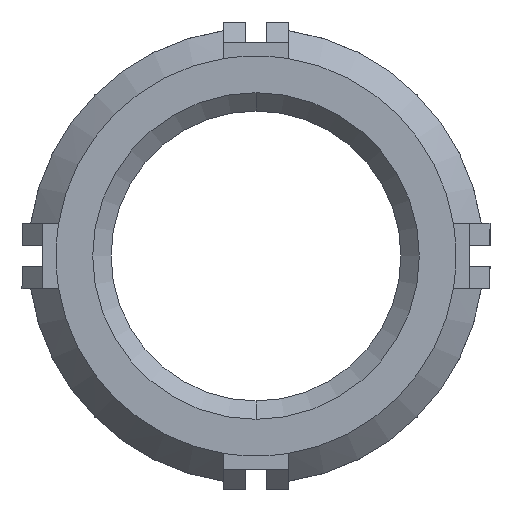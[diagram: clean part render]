
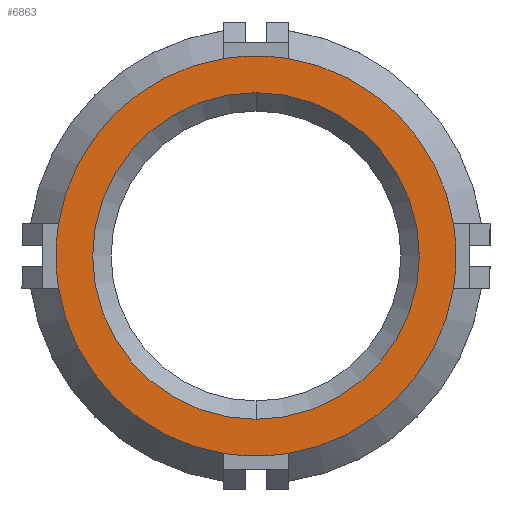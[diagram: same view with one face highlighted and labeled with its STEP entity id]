
A CAD part, front view. The second image highlights one B-rep face of the part: STEP entity #6863.
In plain terms, the highlighted planar face has unit normal (0, -1, 0).
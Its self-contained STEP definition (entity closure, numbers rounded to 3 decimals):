
#79 = CARTESIAN_POINT ( 'NONE',  ( 0., -31.75, 12.524 ) ) ;
#129 = VERTEX_POINT ( 'NONE', #2861 ) ;
#143 = CARTESIAN_POINT ( 'NONE',  ( 0., -31.75, 0. ) ) ;
#159 = FACE_OUTER_BOUND ( 'NONE', #7070, .T. ) ;
#215 = AXIS2_PLACEMENT_3D ( 'NONE', #7152, #3733, #3776 ) ;
#247 = VERTEX_POINT ( 'NONE', #3487 ) ;
#329 = DIRECTION ( 'NONE',  ( 0., 0., 1. ) ) ;
#354 = PLANE ( 'NONE',  #709 ) ;
#506 = DIRECTION ( 'NONE',  ( 0., -1., 0. ) ) ;
#515 = CARTESIAN_POINT ( 'NONE',  ( -15.14, -31.75, -2.5 ) ) ;
#577 = ORIENTED_EDGE ( 'NONE', *, *, #2271, .T. ) ;
#586 = DIRECTION ( 'NONE',  ( 0., 0., 1. ) ) ;
#709 = AXIS2_PLACEMENT_3D ( 'NONE', #1566, #3276, #6264 ) ;
#718 = DIRECTION ( 'NONE',  ( 0., -1., 0. ) ) ;
#775 = CARTESIAN_POINT ( 'NONE',  ( 0., -31.75, 0. ) ) ;
#776 = DIRECTION ( 'NONE',  ( 1., 0., 0. ) ) ;
#804 = CARTESIAN_POINT ( 'NONE',  ( -2.5, -31.75, 15.14 ) ) ;
#827 = ORIENTED_EDGE ( 'NONE', *, *, #1476, .T. ) ;
#881 = CIRCLE ( 'NONE', #5418, 12.524 ) ;
#929 = DIRECTION ( 'NONE',  ( 0., 1., 0. ) ) ;
#1117 = DIRECTION ( 'NONE',  ( 0., 0., 1. ) ) ;
#1272 = VERTEX_POINT ( 'NONE', #79 ) ;
#1468 = DIRECTION ( 'NONE',  ( 0., 0., 1. ) ) ;
#1471 = CIRCLE ( 'NONE', #3402, 12.524 ) ;
#1476 = EDGE_CURVE ( 'NONE', #2545, #129, #5819, .T. ) ;
#1488 = AXIS2_PLACEMENT_3D ( 'NONE', #775, #1974, #4306 ) ;
#1566 = CARTESIAN_POINT ( 'NONE',  ( 0., -31.75, 0. ) ) ;
#1653 = ORIENTED_EDGE ( 'NONE', *, *, #5198, .T. ) ;
#1692 = CARTESIAN_POINT ( 'NONE',  ( 0., -31.75, 0. ) ) ;
#1807 = EDGE_CURVE ( 'NONE', #3529, #1272, #1471, .T. ) ;
#1865 = AXIS2_PLACEMENT_3D ( 'NONE', #143, #718, #4759 ) ;
#1878 = DIRECTION ( 'NONE',  ( 0., -1., 0. ) ) ;
#1942 = EDGE_CURVE ( 'NONE', #4250, #7087, #5450, .T. ) ;
#1974 = DIRECTION ( 'NONE',  ( 0., -1., 0. ) ) ;
#2246 = AXIS2_PLACEMENT_3D ( 'NONE', #5990, #7205, #4234 ) ;
#2271 = EDGE_CURVE ( 'NONE', #129, #247, #4976, .T. ) ;
#2280 = EDGE_CURVE ( 'NONE', #6018, #2441, #4711, .T. ) ;
#2441 = VERTEX_POINT ( 'NONE', #5065 ) ;
#2469 = CARTESIAN_POINT ( 'NONE',  ( 0., -31.75, 0. ) ) ;
#2545 = VERTEX_POINT ( 'NONE', #515 ) ;
#2861 = CARTESIAN_POINT ( 'NONE',  ( -2.5, -31.75, -15.14 ) ) ;
#2969 = ORIENTED_EDGE ( 'NONE', *, *, #4654, .T. ) ;
#3276 = DIRECTION ( 'NONE',  ( 0., 1., 0. ) ) ;
#3402 = AXIS2_PLACEMENT_3D ( 'NONE', #4418, #929, #1468 ) ;
#3422 = CARTESIAN_POINT ( 'NONE',  ( -15.14, -31.75, 2.5 ) ) ;
#3446 = EDGE_LOOP ( 'NONE', ( #6244, #5054 ) ) ;
#3487 = CARTESIAN_POINT ( 'NONE',  ( 2.5, -31.75, -15.14 ) ) ;
#3498 = CARTESIAN_POINT ( 'NONE',  ( 15.14, -31.75, -2.5 ) ) ;
#3529 = VERTEX_POINT ( 'NONE', #3666 ) ;
#3666 = CARTESIAN_POINT ( 'NONE',  ( 0., -31.75, -12.524 ) ) ;
#3733 = DIRECTION ( 'NONE',  ( 0., -1., 0. ) ) ;
#3776 = DIRECTION ( 'NONE',  ( 0., 0., 1. ) ) ;
#4120 = EDGE_CURVE ( 'NONE', #7087, #2545, #5697, .T. ) ;
#4135 = AXIS2_PLACEMENT_3D ( 'NONE', #5978, #1878, #7096 ) ;
#4234 = DIRECTION ( 'NONE',  ( 0., 0., -1. ) ) ;
#4236 = DIRECTION ( 'NONE',  ( 0., -1., 0. ) ) ;
#4250 = VERTEX_POINT ( 'NONE', #804 ) ;
#4306 = DIRECTION ( 'NONE',  ( 0., 0., 1. ) ) ;
#4418 = CARTESIAN_POINT ( 'NONE',  ( 0., -31.75, 0. ) ) ;
#4532 = CIRCLE ( 'NONE', #2246, 15.345 ) ;
#4649 = ORIENTED_EDGE ( 'NONE', *, *, #2280, .T. ) ;
#4654 = EDGE_CURVE ( 'NONE', #2441, #4250, #5560, .T. ) ;
#4711 = CIRCLE ( 'NONE', #215, 15.345 ) ;
#4759 = DIRECTION ( 'NONE',  ( -1., 0., 0. ) ) ;
#4976 = CIRCLE ( 'NONE', #1865, 15.345 ) ;
#5054 = ORIENTED_EDGE ( 'NONE', *, *, #7207, .T. ) ;
#5061 = ORIENTED_EDGE ( 'NONE', *, *, #5210, .T. ) ;
#5065 = CARTESIAN_POINT ( 'NONE',  ( 2.5, -31.75, 15.14 ) ) ;
#5125 = CARTESIAN_POINT ( 'NONE',  ( 0., -31.75, 0. ) ) ;
#5198 = EDGE_CURVE ( 'NONE', #247, #5981, #6324, .T. ) ;
#5210 = EDGE_CURVE ( 'NONE', #5981, #6018, #4532, .T. ) ;
#5277 = DIRECTION ( 'NONE',  ( 0., 1., 0. ) ) ;
#5341 = AXIS2_PLACEMENT_3D ( 'NONE', #5125, #506, #1117 ) ;
#5366 = CARTESIAN_POINT ( 'NONE',  ( 0., -31.75, 0. ) ) ;
#5418 = AXIS2_PLACEMENT_3D ( 'NONE', #1692, #5277, #329 ) ;
#5450 = CIRCLE ( 'NONE', #5341, 15.345 ) ;
#5560 = CIRCLE ( 'NONE', #7057, 15.345 ) ;
#5697 = CIRCLE ( 'NONE', #4135, 15.345 ) ;
#5819 = CIRCLE ( 'NONE', #5833, 15.345 ) ;
#5833 = AXIS2_PLACEMENT_3D ( 'NONE', #2469, #6352, #586 ) ;
#5978 = CARTESIAN_POINT ( 'NONE',  ( 0., -31.75, 0. ) ) ;
#5981 = VERTEX_POINT ( 'NONE', #3498 ) ;
#5990 = CARTESIAN_POINT ( 'NONE',  ( 0., -31.75, 0. ) ) ;
#6018 = VERTEX_POINT ( 'NONE', #7037 ) ;
#6244 = ORIENTED_EDGE ( 'NONE', *, *, #1807, .T. ) ;
#6264 = DIRECTION ( 'NONE',  ( 0., 0., 1. ) ) ;
#6324 = CIRCLE ( 'NONE', #1488, 15.345 ) ;
#6352 = DIRECTION ( 'NONE',  ( 0., -1., 0. ) ) ;
#6372 = ORIENTED_EDGE ( 'NONE', *, *, #4120, .T. ) ;
#6781 = ORIENTED_EDGE ( 'NONE', *, *, #1942, .T. ) ;
#6863 = ADVANCED_FACE ( 'NONE', ( #7050, #159 ), #354, .F. ) ;
#7037 = CARTESIAN_POINT ( 'NONE',  ( 15.14, -31.75, 2.5 ) ) ;
#7050 = FACE_BOUND ( 'NONE', #3446, .T. ) ;
#7057 = AXIS2_PLACEMENT_3D ( 'NONE', #5366, #4236, #776 ) ;
#7070 = EDGE_LOOP ( 'NONE', ( #6372, #827, #577, #1653, #5061, #4649, #2969, #6781 ) ) ;
#7087 = VERTEX_POINT ( 'NONE', #3422 ) ;
#7096 = DIRECTION ( 'NONE',  ( 0., 0., 1. ) ) ;
#7152 = CARTESIAN_POINT ( 'NONE',  ( 0., -31.75, 0. ) ) ;
#7205 = DIRECTION ( 'NONE',  ( 0., -1., 0. ) ) ;
#7207 = EDGE_CURVE ( 'NONE', #1272, #3529, #881, .T. ) ;
